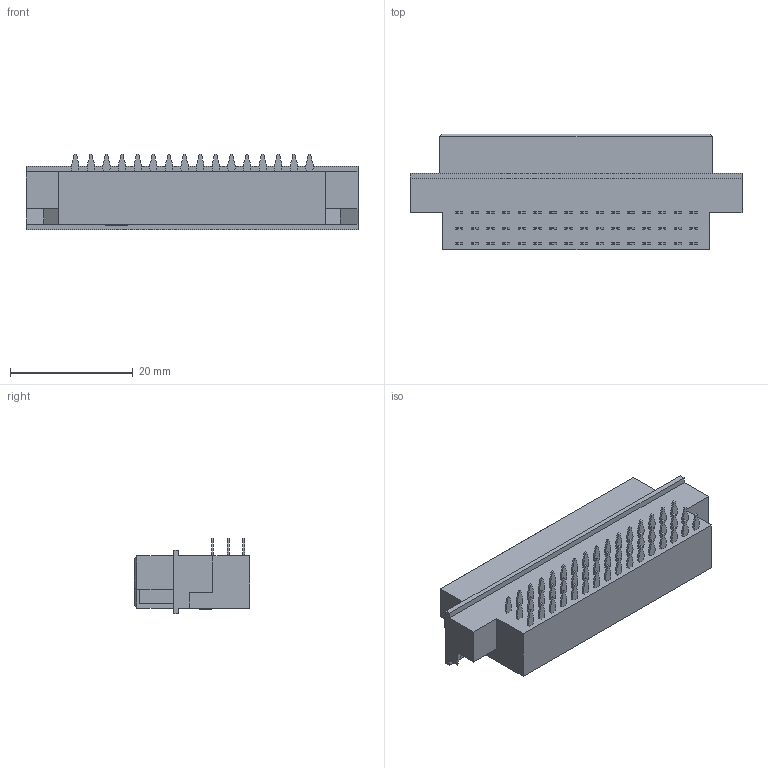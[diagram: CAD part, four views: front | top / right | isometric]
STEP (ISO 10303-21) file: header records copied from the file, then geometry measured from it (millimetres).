
FILE_DESCRIPTION (( 'STEP AP214' ), '1' );
FILE_NAME ('9001-A18481C00PA.STEP', '2016-10-28T15:04:25', ( '' ), ( '' ), 'SwSTEP 2.0', 'SolidWorks 2015', '' );
FILE_SCHEMA (( 'AUTOMOTIVE_DESIGN' ));
Length unit declared in the file: millimetre
Products named in the file (54): 9011-P2414; 9011-P2314; 9011-P2514; 9011-18?2; 9001-A18481C00PA
Assembly tree (49 placements, depth 2):
  9011-P2414
  9011-P2314
  9011-P2314
  9011-P2514
  9011-P2414
Bounding box: 54 x 18.8 x 12.35 mm (x, y, z)
Volume: 7511.3 mm3; surface area: 4289.8 mm2
Topology: 145 solids, 145 shells, 2383 faces, 5922 edges, 3880 vertices
Faces by surface type: plane 1839, cylinder 544
Entity records: 18512 total; most frequent: CARTESIAN_POINT 3058, ORIENTED_EDGE 2934, DIRECTION 2927, EDGE_CURVE 1467, LINE 1369, VECTOR 1369, VERTEX_POINT 910, AXIS2_PLACEMENT_3D 779
